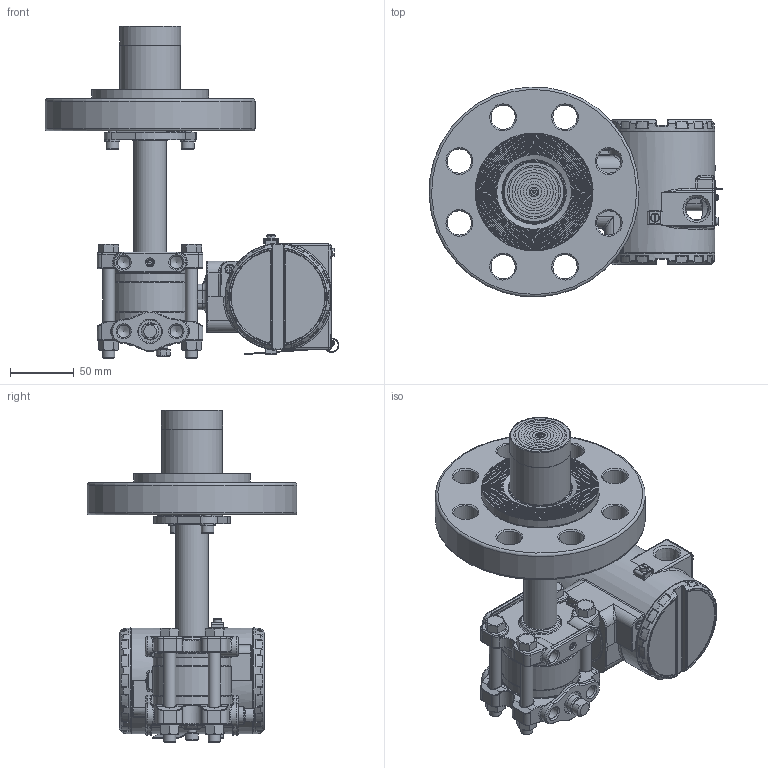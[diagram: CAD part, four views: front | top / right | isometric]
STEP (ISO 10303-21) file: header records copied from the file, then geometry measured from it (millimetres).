
FILE_DESCRIPTION(/* description */ (''),/* implementation_level */ '2;1');
FILE_NAME(/* name */ 'F:\Area\Desenvolvimento_2\Projects\Sensor\projetos\LD30X\montagens 3d - clientes\SELO NIVEL\LD30XL 2-600 RF ext 50 ref 1-4NPT purga acima.stp',/* time_stamp */ '2023-02-10T16:11:17-03:00',/* author */ ('inventor02'),/* organization */ (''),/* preprocessor_version */ 'ST-DEVELOPER v17',/* originating_system */ 'Autodesk Inventor 2019',/* authorisation */ '');
FILE_SCHEMA (('CONFIG_CONTROL_DESIGN'));
Products named in the file (41): LD30XL 2-600 RF ext 50 ref 1-4NPT purga acima; 204-0301-L-2 600 RF ext 50 purga acima; nivel fx3 com baixa diferencial 1-4NPT purga acima; involucro fx0-3 apos a usinagem final; flange diferencial std purga; 101-C-7484-01 flange selo nivel VR; 201-A-0504-tubo união teste 1; bujao 1-4NPT; Sangria; Porca 3-8 x 16 UNC; Paraf. 3-8 x 16 UNC; adaptação tubo x flanges 1-1-2 a 4pol; 101-B-0161-anel cortado do tubo - teste1; 101-B-0162-flange fixação tubo; ANSI B18.3.1M - M6x1 x 16; DIN 127 - A 6; flange 2 600 ext 50; 101-C-0126-10; 101-B-7700-01-50; 101-B-0168-11; carcaça vazia com tampas e plaqueta; carcaça LD inox sem letras; Subconjunto plaqueta 300; Plaqueta transmissor; Parafuso da Plaqueta; Rebite da Plaqueta; 096-A-0169-03; 101-A-0502-01; Chapa aterramento externo; ISO 1207 - M4 x 8; DIN 915 - M6 x 10; ANSI B18.3.1M - M4x0,7 x 8; Subconjunto tampa com visor aluminio; tampa pintada; VIDRO DO VISOR; oring 41x1 vidro tampa; Trava do vidro da tampa com visor; trava do vidro VH256; Subconjunto tampa sem visor-aluminio; tampa cega 300 pintada p0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
Assembly tree (51 placements, depth 4):
  LD30XL 2-600 RF ext 50 ref 1-4NPT purga acima
    204-0301-L-2 600 RF ext 50 purga acima
      nivel fx3 com baixa diferencial 1-4NPT purga acima
        involucro fx0-3 apos a usinagem final
        flange diferencial std purga
        101-C-7484-01 flange selo nivel VR
        201-A-0504-tubo união teste 1
        DIN 915 - M6 x 10
        bujao 1-4NPT
        Sangria
        Porca 3-8 x 16 UNC  x4
        Paraf. 3-8 x 16 UNC  x4
      adaptação tubo x flanges 1-1-2 a 4pol
        101-B-0161-anel cortado do tubo - teste1
        101-B-0162-flange fixação tubo
        ANSI B18.3.1M - M6x1 x 16  x2
        DIN 127 - A 6  x2
      flange 2 600 ext 50
        101-C-0126-10
        101-B-7700-01-50
        101-B-0168-11
    carcaça vazia com tampas e plaqueta
      carcaça LD inox sem letras
      Subconjunto plaqueta 300
        Plaqueta transmissor
        Parafuso da Plaqueta
        Rebite da Plaqueta
        096-A-0169-03
        101-A-0502-01
      Chapa aterramento externo
      ISO 1207 - M4 x 8
      DIN 915 - M6 x 10
      ANSI B18.3.1M - M4x0,7 x 8  x2
      Subconjunto tampa com visor aluminio
        tampa pintada
        VIDRO DO VISOR
        oring 41x1 vidro tampa
        Trava do vidro da tampa com visor
        trava do vidro VH256
        00034775-0
      Subconjunto tampa sem visor-aluminio
        tampa cega 300 pintada p0
        00034775-0
Bounding box: 230.71 x 164.84 x 260.7 mm (x, y, z)
Volume: 1164124.5 mm3; surface area: 339330.4 mm2
Topology: 43 solids, 43 shells, 2756 faces, 6595 edges, 3904 vertices
Faces by surface type: bspline 666, cylinder 660, plane 569, torus 479, cone 256, sphere 126
Full cylindrical faces by diameter (mm): 2 x4, 2.1 x2, 2.459 x5, 2.5 x1, 2.642 x1, 2.7 x1, 2.8 x1, 3 x4, 3.242 x4, 3.5 x5, 3.571 x1, 4 x5, 4.3 x1, 4.4 x1, 4.917 x4, 5 x1, 5.5 x3, 6 x6, 6.647 x1, 7 x7, 7.087 x2, 7.6 x2, 7.798 x4, 8 x1, 8.7 x2, 9.525 x4, 9.728 x6, 10 x2, 10.5 x8, 10.719 x2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
Entity records: 95071 total; most frequent: CARTESIAN_POINT 34704, DIRECTION 12469, ORIENTED_EDGE 12370, EDGE_CURVE 6185, AXIS2_PLACEMENT_3D 5507, VERTEX_POINT 3710, CIRCLE 3261, EDGE_LOOP 2813
